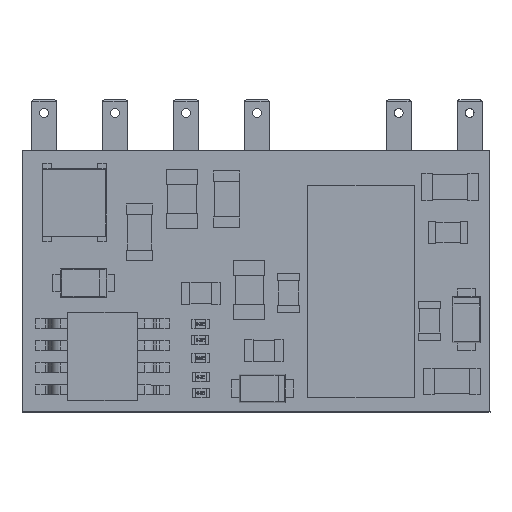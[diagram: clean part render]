
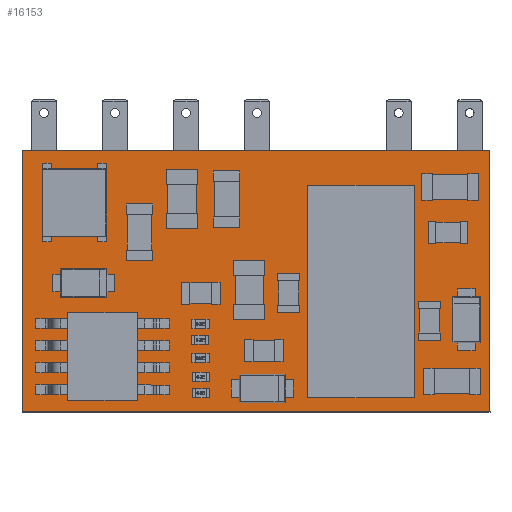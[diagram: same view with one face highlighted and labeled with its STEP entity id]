
A CAD part, top view. The second image highlights one B-rep face of the part: STEP entity #16153.
In plain terms, the highlighted planar face has unit normal (0, 0, 1) as drawn and (0, 0, -1) by its records, which use the part's own axes.
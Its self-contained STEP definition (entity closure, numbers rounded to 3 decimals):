
#1371 = CARTESIAN_POINT ( 'NONE',  ( 0., 0., 0. ) ) ;
#1685 = CARTESIAN_POINT ( 'NONE',  ( 26.4, 0., 0. ) ) ;
#2089 = CARTESIAN_POINT ( 'NONE',  ( 26.4, 14.73, 0. ) ) ;
#2242 = EDGE_CURVE ( 'NONE', #7673, #9828, #12684, .T. ) ;
#2651 = CARTESIAN_POINT ( 'NONE',  ( 0., 0., 0. ) ) ;
#2691 = LINE ( 'NONE', #4357, #13216 ) ;
#3008 = ORIENTED_EDGE ( 'NONE', *, *, #2242, .F. ) ;
#3086 = EDGE_LOOP ( 'NONE', ( #3008, #18775, #4093, #5519 ) ) ;
#3979 = VECTOR ( 'NONE', #7764, 1000. ) ;
#4093 = ORIENTED_EDGE ( 'NONE', *, *, #6918, .F. ) ;
#4357 = CARTESIAN_POINT ( 'NONE',  ( 26.4, 14.73, 0. ) ) ;
#5519 = ORIENTED_EDGE ( 'NONE', *, *, #14143, .F. ) ;
#5762 = PLANE ( 'NONE',  #11663 ) ;
#6269 = CARTESIAN_POINT ( 'NONE',  ( 0., 0., 0. ) ) ;
#6918 = EDGE_CURVE ( 'NONE', #12501, #10409, #10343, .T. ) ;
#7571 = LINE ( 'NONE', #1371, #3979 ) ;
#7673 = VERTEX_POINT ( 'NONE', #2651 ) ;
#7764 = DIRECTION ( 'NONE',  ( 0., -1., 0. ) ) ;
#9132 = CARTESIAN_POINT ( 'NONE',  ( 0., 14.73, 0. ) ) ;
#9503 = CARTESIAN_POINT ( 'NONE',  ( 26.4, 0., 0. ) ) ;
#9536 = CARTESIAN_POINT ( 'NONE',  ( 0., 14.73, 0. ) ) ;
#9828 = VERTEX_POINT ( 'NONE', #9503 ) ;
#10343 = LINE ( 'NONE', #9132, #18231 ) ;
#10409 = VERTEX_POINT ( 'NONE', #9536 ) ;
#10690 = DIRECTION ( 'NONE',  ( 0., 1., 0. ) ) ;
#11226 = DIRECTION ( 'NONE',  ( 1., 0., 0. ) ) ;
#11663 = AXIS2_PLACEMENT_3D ( 'NONE', #6269, #16080, #20230 ) ;
#11686 = DIRECTION ( 'NONE',  ( -1., 0., 0. ) ) ;
#12501 = VERTEX_POINT ( 'NONE', #2089 ) ;
#12684 = LINE ( 'NONE', #1685, #19716 ) ;
#13216 = VECTOR ( 'NONE', #10690, 1000. ) ;
#13799 = EDGE_CURVE ( 'NONE', #10409, #7673, #7571, .T. ) ;
#14143 = EDGE_CURVE ( 'NONE', #9828, #12501, #2691, .T. ) ;
#16080 = DIRECTION ( 'NONE',  ( 0., 0., -1. ) ) ;
#16153 = ADVANCED_FACE ( 'NONE', ( #19851 ), #5762, .T. ) ;
#18231 = VECTOR ( 'NONE', #11686, 1000. ) ;
#18775 = ORIENTED_EDGE ( 'NONE', *, *, #13799, .F. ) ;
#19716 = VECTOR ( 'NONE', #11226, 1000. ) ;
#19851 = FACE_OUTER_BOUND ( 'NONE', #3086, .T. ) ;
#20230 = DIRECTION ( 'NONE',  ( -1., 0., 0. ) ) ;
